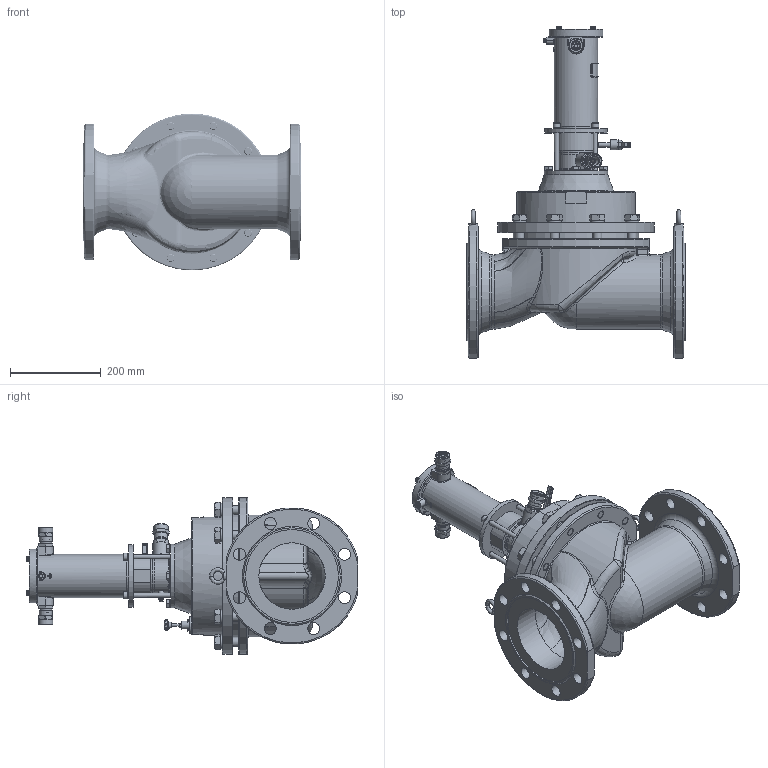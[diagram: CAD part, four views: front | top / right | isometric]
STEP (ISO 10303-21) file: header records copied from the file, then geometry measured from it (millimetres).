
FILE_DESCRIPTION(('STEP AP203'), '1');
FILE_NAME('ÑÅÍÑ-ÏÐ DN150PN25-ÄÏ1.stp', '2018-10-09T08:05:18', ('Îðëîâ Å.Â.'), ('ÎÎÎ ÍÏÏ Ñåíñîð'), 'ASCON STEP Converter 1.3', 'Kompas 3D', '');
FILE_SCHEMA(('CONFIG_CONTROL_DESIGN','SUPPORT_RESOURCE_SCHEMA'));
Length unit declared in the file: millimetre
Products named in the file (1): 40
Bounding box: 480 x 729.7 x 345 mm (x, y, z)
Volume: 861987.7 mm3; surface area: 1756354.1 mm2
Topology: 52 solids, 53 shells, 3187 faces, 8179 edges, 5233 vertices
Faces by surface type: cylinder 1279, plane 1251, cone 280, bspline 170, extrusion 108, torus 96, sphere 3
Full cylindrical faces by diameter (mm): 2.459 x2, 3 x4, 3.242 x6, 3.3 x1, 3.5 x2, 3.8 x1, 4 x6, 4.134 x8, 4.2 x1, 4.5 x4, 4.917 x6, 5 x4, 5.2 x1, 5.3 x1, 6 x8, 6.5 x4, 6.647 x2, 7 x16, 7.6 x1, 8 x13, 8.376 x8, 8.5 x1, 9.5 x1, 9.6 x1, 10 x14, 11 x12, 12 x7, 12.2 x2, 13 x4, 14 x1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
Entity records: 152099 total; most frequent: CARTESIAN_POINT 75123, ORIENTED_EDGE 16196, DIRECTION 15876, EDGE_CURVE 8099, AXIS2_PLACEMENT_3D 6035, VERTEX_POINT 5232, VECTOR 3806, LINE 3698
